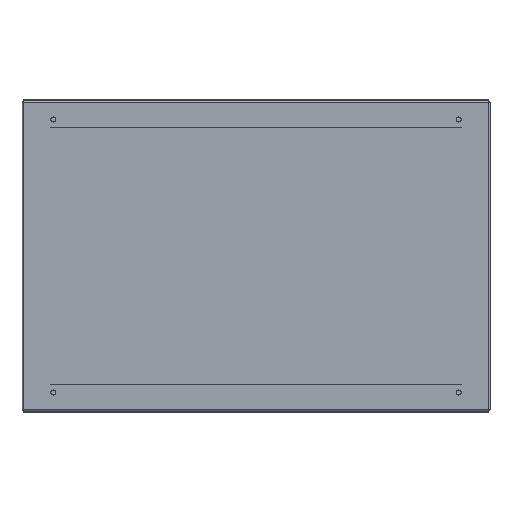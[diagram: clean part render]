
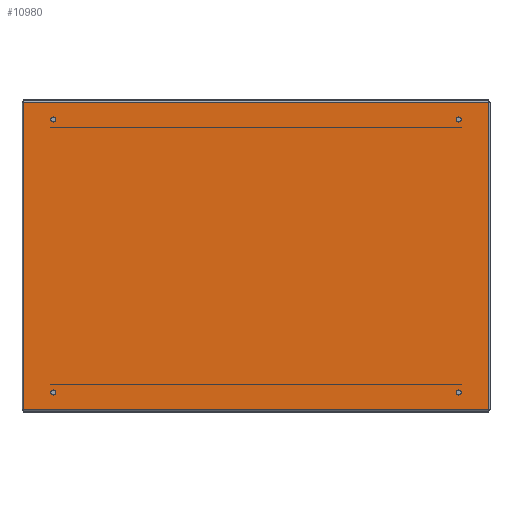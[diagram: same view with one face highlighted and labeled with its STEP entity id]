
A CAD part, front view. The second image highlights one B-rep face of the part: STEP entity #10980.
In plain terms, the highlighted planar face has unit normal (0, -1, 0).
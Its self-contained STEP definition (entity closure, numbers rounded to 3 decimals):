
#89 = VERTEX_POINT ( 'NONE', #8231 ) ;
#242 = CIRCLE ( 'NONE', #11191, 3.25 ) ;
#329 = VERTEX_POINT ( 'NONE', #8688 ) ;
#397 = PLANE ( 'NONE',  #3230 ) ;
#425 = FACE_BOUND ( 'NONE', #7683, .T. ) ;
#486 = VERTEX_POINT ( 'NONE', #4166 ) ;
#1101 = VERTEX_POINT ( 'NONE', #11247 ) ;
#1125 = LINE ( 'NONE', #8033, #7409 ) ;
#1167 = VERTEX_POINT ( 'NONE', #10457 ) ;
#1253 = DIRECTION ( 'NONE',  ( 0., 1., 0. ) ) ;
#1777 = CARTESIAN_POINT ( 'NONE',  ( 297.8, 0., 196.8 ) ) ;
#1831 = EDGE_CURVE ( 'NONE', #10465, #3051, #11507, .T. ) ;
#2017 = DIRECTION ( 'NONE',  ( -1., 0., 0. ) ) ;
#2211 = DIRECTION ( 'NONE',  ( 0., -1., 0. ) ) ;
#2295 = EDGE_LOOP ( 'NONE', ( #3759, #11520 ) ) ;
#2415 = VECTOR ( 'NONE', #4155, 1000. ) ;
#3017 = CIRCLE ( 'NONE', #9593, 3.25 ) ;
#3051 = VERTEX_POINT ( 'NONE', #3432 ) ;
#3063 = CARTESIAN_POINT ( 'NONE',  ( 263.25, 0., -175. ) ) ;
#3165 = DIRECTION ( 'NONE',  ( 0., 1., 0. ) ) ;
#3215 = AXIS2_PLACEMENT_3D ( 'NONE', #12697, #12650, #10782 ) ;
#3225 = ORIENTED_EDGE ( 'NONE', *, *, #12431, .T. ) ;
#3230 = AXIS2_PLACEMENT_3D ( 'NONE', #4157, #2211, #7160 ) ;
#3279 = EDGE_LOOP ( 'NONE', ( #5118, #4751, #3225, #7378 ) ) ;
#3394 = ORIENTED_EDGE ( 'NONE', *, *, #9772, .T. ) ;
#3432 = CARTESIAN_POINT ( 'NONE',  ( 256.75, 0., 175. ) ) ;
#3511 = CARTESIAN_POINT ( 'NONE',  ( 256.75, 0., -175. ) ) ;
#3585 = AXIS2_PLACEMENT_3D ( 'NONE', #9482, #3681, #7583 ) ;
#3681 = DIRECTION ( 'NONE',  ( 0., 1., 0. ) ) ;
#3724 = CIRCLE ( 'NONE', #12366, 3.25 ) ;
#3759 = ORIENTED_EDGE ( 'NONE', *, *, #12629, .T. ) ;
#3770 = DIRECTION ( 'NONE',  ( 0., 1., 0. ) ) ;
#3875 = CARTESIAN_POINT ( 'NONE',  ( 260., 0., -175. ) ) ;
#4155 = DIRECTION ( 'NONE',  ( 1., 0., 0. ) ) ;
#4157 = CARTESIAN_POINT ( 'NONE',  ( -297.8, 0., -199. ) ) ;
#4166 = CARTESIAN_POINT ( 'NONE',  ( -256.75, 0., 175. ) ) ;
#4285 = EDGE_CURVE ( 'NONE', #1167, #329, #242, .T. ) ;
#4461 = DIRECTION ( 'NONE',  ( -1., 0., 0. ) ) ;
#4643 = VERTEX_POINT ( 'NONE', #3063 ) ;
#4656 = CARTESIAN_POINT ( 'NONE',  ( -260., 0., -175. ) ) ;
#4677 = VERTEX_POINT ( 'NONE', #9008 ) ;
#4751 = ORIENTED_EDGE ( 'NONE', *, *, #12010, .T. ) ;
#4781 = CARTESIAN_POINT ( 'NONE',  ( -297.8, 0., -196.8 ) ) ;
#5089 = CARTESIAN_POINT ( 'NONE',  ( -297.8, 0., -196.8 ) ) ;
#5118 = ORIENTED_EDGE ( 'NONE', *, *, #10255, .T. ) ;
#5153 = FACE_BOUND ( 'NONE', #8571, .T. ) ;
#5269 = CIRCLE ( 'NONE', #8070, 3.25 ) ;
#5272 = DIRECTION ( 'NONE',  ( -1., 0., 0. ) ) ;
#5642 = ORIENTED_EDGE ( 'NONE', *, *, #8111, .T. ) ;
#5699 = DIRECTION ( 'NONE',  ( 0., 0., 1. ) ) ;
#5833 = VECTOR ( 'NONE', #5272, 1000. ) ;
#5841 = VERTEX_POINT ( 'NONE', #7010 ) ;
#5916 = ORIENTED_EDGE ( 'NONE', *, *, #11179, .T. ) ;
#6085 = DIRECTION ( 'NONE',  ( 0., 0., 1. ) ) ;
#6197 = CARTESIAN_POINT ( 'NONE',  ( 297.8, 0., 196.8 ) ) ;
#6220 = LINE ( 'NONE', #4781, #11472 ) ;
#6456 = EDGE_CURVE ( 'NONE', #5841, #486, #9983, .T. ) ;
#6533 = EDGE_LOOP ( 'NONE', ( #7671, #3394 ) ) ;
#6560 = FACE_BOUND ( 'NONE', #6533, .T. ) ;
#6621 = LINE ( 'NONE', #6197, #5833 ) ;
#6823 = ORIENTED_EDGE ( 'NONE', *, *, #6456, .T. ) ;
#7010 = CARTESIAN_POINT ( 'NONE',  ( -263.25, 0., 175. ) ) ;
#7160 = DIRECTION ( 'NONE',  ( -1., 0., 0. ) ) ;
#7209 = CIRCLE ( 'NONE', #7630, 3.25 ) ;
#7243 = CARTESIAN_POINT ( 'NONE',  ( -260., 0., 175. ) ) ;
#7378 = ORIENTED_EDGE ( 'NONE', *, *, #8403, .F. ) ;
#7409 = VECTOR ( 'NONE', #6085, 1000. ) ;
#7470 = FACE_BOUND ( 'NONE', #2295, .T. ) ;
#7583 = DIRECTION ( 'NONE',  ( 1., 0., 0. ) ) ;
#7630 = AXIS2_PLACEMENT_3D ( 'NONE', #10232, #10362, #4461 ) ;
#7670 = LINE ( 'NONE', #5089, #2415 ) ;
#7671 = ORIENTED_EDGE ( 'NONE', *, *, #10931, .T. ) ;
#7683 = EDGE_LOOP ( 'NONE', ( #5916, #6823 ) ) ;
#8033 = CARTESIAN_POINT ( 'NONE',  ( 297.8, 0., -196.8 ) ) ;
#8070 = AXIS2_PLACEMENT_3D ( 'NONE', #10101, #10020, #11102 ) ;
#8111 = EDGE_CURVE ( 'NONE', #329, #1167, #5269, .T. ) ;
#8125 = AXIS2_PLACEMENT_3D ( 'NONE', #7243, #1253, #10127 ) ;
#8231 = CARTESIAN_POINT ( 'NONE',  ( -297.8, 0., 196.8 ) ) ;
#8306 = VERTEX_POINT ( 'NONE', #3511 ) ;
#8403 = EDGE_CURVE ( 'NONE', #1101, #89, #6220, .T. ) ;
#8571 = EDGE_LOOP ( 'NONE', ( #5642, #11935 ) ) ;
#8688 = CARTESIAN_POINT ( 'NONE',  ( -256.75, 0., -175. ) ) ;
#9008 = CARTESIAN_POINT ( 'NONE',  ( 297.8, 0., -196.8 ) ) ;
#9166 = FACE_OUTER_BOUND ( 'NONE', #3279, .T. ) ;
#9180 = CARTESIAN_POINT ( 'NONE',  ( 260., 0., -175. ) ) ;
#9221 = DIRECTION ( 'NONE',  ( -1., 0., 0. ) ) ;
#9314 = CIRCLE ( 'NONE', #3585, 3.25 ) ;
#9482 = CARTESIAN_POINT ( 'NONE',  ( -260., 0., 175. ) ) ;
#9593 = AXIS2_PLACEMENT_3D ( 'NONE', #9180, #3165, #9221 ) ;
#9772 = EDGE_CURVE ( 'NONE', #4643, #8306, #3724, .T. ) ;
#9983 = CIRCLE ( 'NONE', #8125, 3.25 ) ;
#10020 = DIRECTION ( 'NONE',  ( 0., 1., 0. ) ) ;
#10101 = CARTESIAN_POINT ( 'NONE',  ( -260., 0., -175. ) ) ;
#10127 = DIRECTION ( 'NONE',  ( 1., 0., 0. ) ) ;
#10232 = CARTESIAN_POINT ( 'NONE',  ( 260., 0., 175. ) ) ;
#10255 = EDGE_CURVE ( 'NONE', #1101, #4677, #7670, .T. ) ;
#10362 = DIRECTION ( 'NONE',  ( 0., 1., 0. ) ) ;
#10457 = CARTESIAN_POINT ( 'NONE',  ( -263.25, 0., -175. ) ) ;
#10465 = VERTEX_POINT ( 'NONE', #11616 ) ;
#10470 = DIRECTION ( 'NONE',  ( 1., 0., 0. ) ) ;
#10782 = DIRECTION ( 'NONE',  ( -1., 0., 0. ) ) ;
#10882 = DIRECTION ( 'NONE',  ( 0., 1., 0. ) ) ;
#10931 = EDGE_CURVE ( 'NONE', #8306, #4643, #3017, .T. ) ;
#10980 = ADVANCED_FACE ( 'NONE', ( #9166, #5153, #425, #7470, #6560 ), #397, .T. ) ;
#11102 = DIRECTION ( 'NONE',  ( 1., 0., 0. ) ) ;
#11179 = EDGE_CURVE ( 'NONE', #486, #5841, #9314, .T. ) ;
#11191 = AXIS2_PLACEMENT_3D ( 'NONE', #4656, #3770, #10470 ) ;
#11247 = CARTESIAN_POINT ( 'NONE',  ( -297.8, 0., -196.8 ) ) ;
#11472 = VECTOR ( 'NONE', #5699, 1000. ) ;
#11507 = CIRCLE ( 'NONE', #3215, 3.25 ) ;
#11520 = ORIENTED_EDGE ( 'NONE', *, *, #1831, .T. ) ;
#11616 = CARTESIAN_POINT ( 'NONE',  ( 263.25, 0., 175. ) ) ;
#11935 = ORIENTED_EDGE ( 'NONE', *, *, #4285, .T. ) ;
#12010 = EDGE_CURVE ( 'NONE', #4677, #12283, #1125, .T. ) ;
#12283 = VERTEX_POINT ( 'NONE', #1777 ) ;
#12366 = AXIS2_PLACEMENT_3D ( 'NONE', #3875, #10882, #2017 ) ;
#12431 = EDGE_CURVE ( 'NONE', #12283, #89, #6621, .T. ) ;
#12629 = EDGE_CURVE ( 'NONE', #3051, #10465, #7209, .T. ) ;
#12650 = DIRECTION ( 'NONE',  ( 0., 1., 0. ) ) ;
#12697 = CARTESIAN_POINT ( 'NONE',  ( 260., 0., 175. ) ) ;
